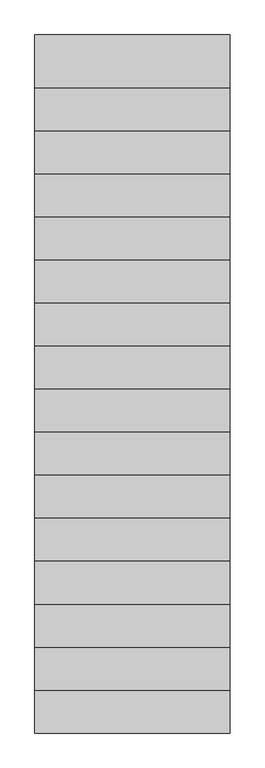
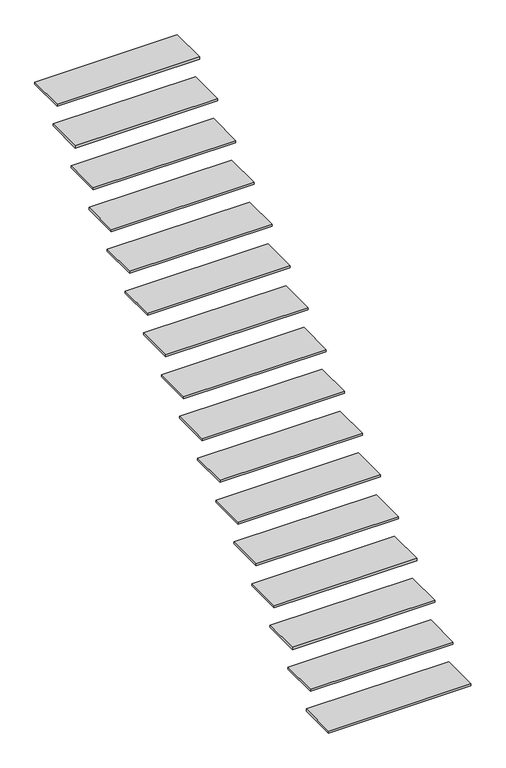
"""IFC4 building model written with IfcOpenShell, lengths in millimetres: stair flight geometry, 24_STR_trede_staal_gegalvaniseerd_rooster_15_neus_50."""

from ifc_helpers import new_model, si_unit, frame, origin, place, context, project, spatial, polyline, outline, extrude, source, transform, mapped, element, save


def stair_flight_c36d8fac(model_context):
    return source(origin(), model_context, "Body", "SweptSolid", [
        extrude(outline(polyline([(19274.8089026, -31054.6322236), (20274.8089026, -31054.6322236), (20274.8089026, -31324.6322236), (19274.8089026, -31324.6322236), (19274.8089026, -31054.6322236)])), frame((0.0, 0.0, 161.4705882), z_axis=(0.0, 0.0, 1.0), x_axis=(1.0, 0.0, 0.0)), (0.0, 0.0, 1.0), 15.0),
        extrude(outline(polyline([(19274.8089026, -30834.6322236), (20274.8089026, -30834.6322236), (20274.8089026, -31104.6322236), (19274.8089026, -31104.6322236), (19274.8089026, -30834.6322236)])), frame((0.0, 0.0, 337.9411765), z_axis=(0.0, 0.0, 1.0), x_axis=(1.0, 0.0, 0.0)), (0.0, 0.0, 1.0), 15.0),
        extrude(outline(polyline([(19274.8089026, -30614.6322236), (20274.8089026, -30614.6322236), (20274.8089026, -30884.6322236), (19274.8089026, -30884.6322236), (19274.8089026, -30614.6322236)])), frame((0.0, 0.0, 514.4117647), z_axis=(0.0, 0.0, 1.0), x_axis=(1.0, 0.0, 0.0)), (0.0, 0.0, 1.0), 15.0),
        extrude(outline(polyline([(19274.8089026, -30394.6322236), (20274.8089026, -30394.6322236), (20274.8089026, -30664.6322236), (19274.8089026, -30664.6322236), (19274.8089026, -30394.6322236)])), frame((0.0, 0.0, 690.8823529), z_axis=(0.0, 0.0, 1.0), x_axis=(1.0, 0.0, 0.0)), (0.0, 0.0, 1.0), 15.0),
        extrude(outline(polyline([(19274.8089026, -30174.6322236), (20274.8089026, -30174.6322236), (20274.8089026, -30444.6322236), (19274.8089026, -30444.6322236), (19274.8089026, -30174.6322236)])), frame((0.0, 0.0, 867.3529412), z_axis=(0.0, 0.0, 1.0), x_axis=(1.0, 0.0, 0.0)), (0.0, 0.0, 1.0), 15.0),
        extrude(outline(polyline([(19274.8089026, -29954.6322236), (20274.8089026, -29954.6322236), (20274.8089026, -30224.6322236), (19274.8089026, -30224.6322236), (19274.8089026, -29954.6322236)])), frame((0.0, 0.0, 1043.8235294), z_axis=(0.0, 0.0, 1.0), x_axis=(1.0, 0.0, 0.0)), (0.0, 0.0, 1.0), 15.0),
        extrude(outline(polyline([(19274.8089026, -29734.6322236), (20274.8089026, -29734.6322236), (20274.8089026, -30004.6322236), (19274.8089026, -30004.6322236), (19274.8089026, -29734.6322236)])), frame((0.0, 0.0, 1220.2941176), z_axis=(0.0, 0.0, 1.0), x_axis=(1.0, 0.0, 0.0)), (0.0, 0.0, 1.0), 15.0),
        extrude(outline(polyline([(19274.8089026, -29514.6322236), (20274.8089026, -29514.6322236), (20274.8089026, -29784.6322236), (19274.8089026, -29784.6322236), (19274.8089026, -29514.6322236)])), frame((0.0, 0.0, 1396.7647059), z_axis=(0.0, 0.0, 1.0), x_axis=(1.0, 0.0, 0.0)), (0.0, 0.0, 1.0), 15.0),
        extrude(outline(polyline([(19274.8089026, -29294.6322236), (20274.8089026, -29294.6322236), (20274.8089026, -29564.6322236), (19274.8089026, -29564.6322236), (19274.8089026, -29294.6322236)])), frame((0.0, 0.0, 1573.2352941), z_axis=(0.0, 0.0, 1.0), x_axis=(1.0, 0.0, 0.0)), (0.0, 0.0, 1.0), 15.0),
        extrude(outline(polyline([(19274.8089026, -29074.6322236), (20274.8089026, -29074.6322236), (20274.8089026, -29344.6322236), (19274.8089026, -29344.6322236), (19274.8089026, -29074.6322236)])), frame((0.0, 0.0, 1749.7058824), z_axis=(0.0, 0.0, 1.0), x_axis=(1.0, 0.0, 0.0)), (0.0, 0.0, 1.0), 15.0),
        extrude(outline(polyline([(19274.8089026, -28854.6322236), (20274.8089026, -28854.6322236), (20274.8089026, -29124.6322236), (19274.8089026, -29124.6322236), (19274.8089026, -28854.6322236)])), frame((0.0, 0.0, 1926.1764706), z_axis=(0.0, 0.0, 1.0), x_axis=(1.0, 0.0, 0.0)), (0.0, 0.0, 1.0), 15.0),
        extrude(outline(polyline([(19274.8089026, -28634.6322236), (20274.8089026, -28634.6322236), (20274.8089026, -28904.6322236), (19274.8089026, -28904.6322236), (19274.8089026, -28634.6322236)])), frame((0.0, 0.0, 2102.6470588), z_axis=(0.0, 0.0, 1.0), x_axis=(1.0, 0.0, 0.0)), (0.0, 0.0, 1.0), 15.0),
        extrude(outline(polyline([(19274.8089026, -28414.6322236), (20274.8089026, -28414.6322236), (20274.8089026, -28684.6322236), (19274.8089026, -28684.6322236), (19274.8089026, -28414.6322236)])), frame((0.0, 0.0, 2279.1176471), z_axis=(0.0, 0.0, 1.0), x_axis=(1.0, 0.0, 0.0)), (0.0, 0.0, 1.0), 15.0),
        extrude(outline(polyline([(19274.8089026, -28194.6322236), (20274.8089026, -28194.6322236), (20274.8089026, -28464.6322236), (19274.8089026, -28464.6322236), (19274.8089026, -28194.6322236)])), frame((0.0, 0.0, 2455.5882353), z_axis=(0.0, 0.0, 1.0), x_axis=(1.0, 0.0, 0.0)), (0.0, 0.0, 1.0), 15.0),
        extrude(outline(polyline([(19274.8089026, -27974.6322236), (20274.8089026, -27974.6322236), (20274.8089026, -28244.6322236), (19274.8089026, -28244.6322236), (19274.8089026, -27974.6322236)])), frame((0.0, 0.0, 2632.0588235), z_axis=(0.0, 0.0, 1.0), x_axis=(1.0, 0.0, 0.0)), (0.0, 0.0, 1.0), 15.0),
        extrude(outline(polyline([(19274.8089026, -27754.6322236), (20274.8089026, -27754.6322236), (20274.8089026, -28024.6322236), (19274.8089026, -28024.6322236), (19274.8089026, -27754.6322236)])), frame((0.0, 0.0, 2808.5294118), z_axis=(0.0, 0.0, 1.0), x_axis=(1.0, 0.0, 0.0)), (0.0, 0.0, 1.0), 15.0),
    ])


if __name__ == "__main__":
    model = new_model("IFC4")
    model_context = context("Model", 3, world=origin())
    ifc_project = project(units=[si_unit("LENGTHUNIT", "METRE", prefix="MILLI")], contexts=[model_context])
    site = spatial("IfcSite", under=ifc_project)
    building = spatial("IfcBuilding", under=site)
    placement = place(None, origin())
    stair_flight_shape = stair_flight_c36d8fac(model_context)
    element("IfcStairFlight", 1, ObjectType="24_STR_trede_staal_gegalvaniseerd_rooster_15_neus_50", at=placement, inside=building, context=model_context, shape_type="MappedRepresentation", body=[
        mapped(stair_flight_shape, transform((0.0, 0.0, 0.0), x_axis=(1.0, 0.0, 0.0), y_axis=(0.0, 1.0, 0.0), z_axis=(0.0, 0.0, 1.0))),
    ])
    save(model, "model.ifc")
